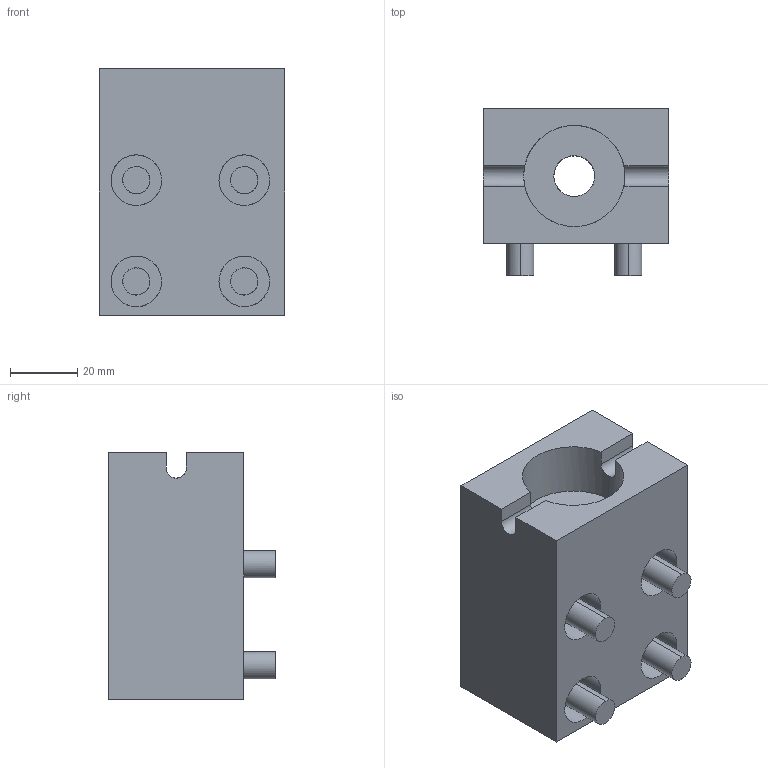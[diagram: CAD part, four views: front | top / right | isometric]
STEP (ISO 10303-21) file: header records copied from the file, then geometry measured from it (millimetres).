
FILE_DESCRIPTION(('STEP AP214'),'1');
FILE_NAME('EGT177_1705135_RD30_K50_63_HLR.CATPart.stp','2015-09-14T13:11:03',('3D-Tool'),(' '),'Spatial InterOp 3D',' ',' ');
FILE_SCHEMA(('automotive_design'));
Length unit declared in the file: millimetre
Products named in the file (5): EGT177_1705135_RD30_K50_63_HLR|EGT_177_RD30_K50_63_HLR_ET.1_Hauptkörper|EGT_177_RD30_K50_63_HLR_ET.1_Hauptkörper; EGT177_1705135_RD30_K50_63_HLR|DIN912_ZYLINDERSCHRAUBE_M8X40_KPL.1|DIN912_ZYLINDERSCHRAUBE_M8X40_KPL.1; EGT177_1705135_RD30_K50_63_HLR|DIN912_ZYLINDERSCHRAUBE_M8X40_KPL.2|DIN912_ZYLINDERSCHRAUBE_M8X40_KPL.2; EGT177_1705135_RD30_K50_63_HLR|DIN912_ZYLINDERSCHRAUBE_M8X40_KPL.3|DIN912_ZYLINDERSCHRAUBE_M8X40_KPL.3; EGT177_1705135_RD30_K50_63_HLR|DIN912_ZYLINDERSCHRAUBE_M8X40_KPL.4|DIN912_ZYLINDERSCHRAUBE_M8X40_KPL.4
Bounding box: 55 x 49.4 x 73 mm (x, y, z)
Volume: 134847.6 mm3; surface area: 34503.8 mm2
Topology: 5 solids, 5 shells, 118 faces, 315 edges, 227 vertices
Faces by surface type: plane 64, cylinder 54
Entity records: 4687 total; most frequent: CARTESIAN_POINT 1389, ORIENTED_EDGE 630, EDGE_CURVE 315, DIRECTION 246, VERTEX_POINT 227, B_SPLINE_CURVE_WITH_KNOTS 160, EDGE_LOOP 148, STYLED_ITEM 123
